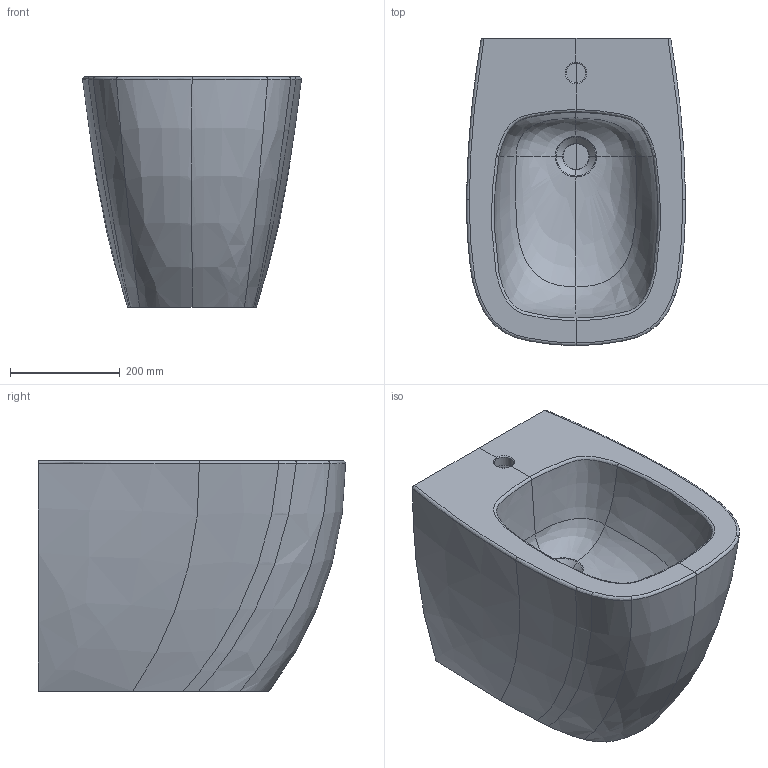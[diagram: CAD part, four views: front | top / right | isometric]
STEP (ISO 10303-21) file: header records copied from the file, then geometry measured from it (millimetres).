
FILE_DESCRIPTION(('CATIA V5 STEP Exchange'),'2;1');
FILE_NAME('C:\Users\167035\Downloads\3D_7516.stp','2024-06-06T13:04:53+00:00',('none'),('none'),'CATIA Version 5 Release 19 SP 5 (IN-10)','CATIA V5 STEP AP214','none');
FILE_SCHEMA(('AUTOMOTIVE_DESIGN { 1 0 10303 214 1 1 1 1 }'));
Length unit declared in the file: millimetre
Products named in the file (1): bidet terra Lola
Bounding box: 398.75 x 559.61 x 420 mm (x, y, z)
Surface area: 1066501 mm2 (no closed solid volume)
Topology: 0 solids, 1 shells, 60 faces, 141 edges, 81 vertices
Faces by surface type: bspline 50, plane 6, cylinder 2, torus 2
Entity records: 24325 total; most frequent: CARTESIAN_POINT 23347, ORIENTED_EDGE 276, EDGE_CURVE 141, B_SPLINE_CURVE_WITH_KNOTS 119, VERTEX_POINT 81, ADVANCED_FACE 60, EDGE_LOOP 60, FACE_OUTER_BOUND 60
